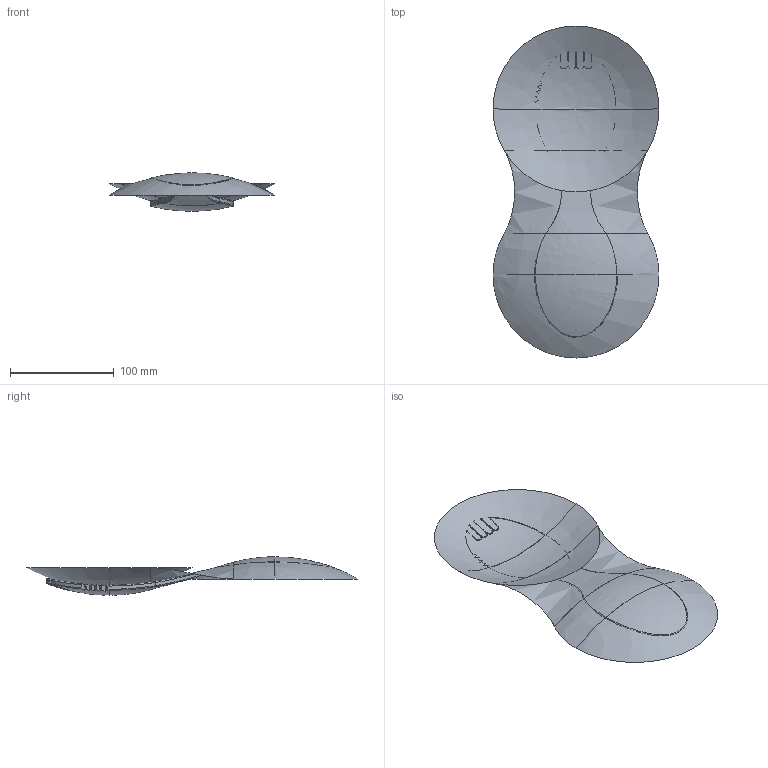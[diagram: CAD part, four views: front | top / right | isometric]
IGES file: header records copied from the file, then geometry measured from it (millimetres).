
Start section: START RECORD GO HERE.
Global section: file name: V5R19HF46-MessergablelLoeffelnicht.igs; native system: IBM CATIA IGES - CATIA Version 5 Release 19 ; preprocessor: CATIA Version 5 Release 19 ; author: THARMEN; organization: EMEA; date: 20100421.184906; units: millimetre
Bounding box: 160 x 320 x 37 mm (x, y, z)
Surface area: 159068.4 mm2 (no closed solid volume)
Topology: 0 solids, 160 shells, 160 faces, 766 edges, 751 vertices
Faces by surface type: revolution 76, bspline 55, plane 22, extrusion 7
